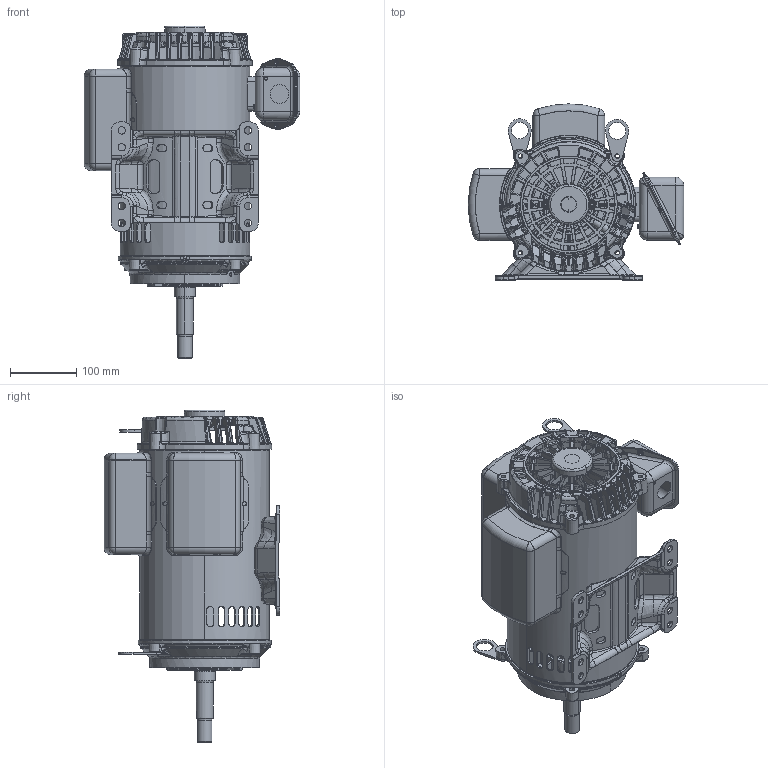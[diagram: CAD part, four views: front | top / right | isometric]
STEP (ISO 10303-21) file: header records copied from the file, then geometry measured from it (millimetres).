
FILE_DESCRIPTION((''),'2;1');
FILE_NAME('BB07_ASM','2014-07-21T',('NMC779F'),('Nidec Motor Corporation'),'PRO/ENGINEER BY PARAMETRIC TECHNOLOGY CORPORATION, 2013150','PRO/ENGINEER BY PARAMETRIC TECHNOLOGY CORPORATION, 2013150','');
FILE_SCHEMA(('CONFIG_CONTROL_DESIGN'));
Length unit declared in the file: inch
Products named in the file (16): 184_D_FRAME; 0394129-BKT_AF0; 0384386_AF0; 0384805_ASM; 0380228; 0380775-BKT_AF0; 0360286_AF0; 0380776_ASM; 0651822; 0362988; 0390418; 0390928; 0390417; 0382609; 0904779-001; BB07_ASM
Assembly tree (17 placements, depth 3):
  BB07_ASM
    184_D_FRAME
    0384805_ASM
      0394129-BKT_AF0
      0384386_AF0
    0380228
    0380776_ASM
      0380775-BKT_AF0
      0360286_AF0
    0651822
    0362988  x2
    0390418
    0390928
    0390417
    0382609
    0904779-001  x2
Bounding box: 325.4 x 265.64 x 501.15 mm (x, y, z)
Volume: 1779754.9 mm3; surface area: 1076184.5 mm2
Topology: 17 solids, 17 shells, 3130 faces, 8052 edges, 4915 vertices
Faces by surface type: bspline 1152, plane 584, cylinder 561, cone 393, torus 348, sphere 92
Entity records: 133869 total; most frequent: CARTESIAN_POINT 69379, ORIENTED_EDGE 15478, DIRECTION 10881, EDGE_CURVE 7739, VERTEX_POINT 4739, AXIS2_PLACEMENT_3D 4639, B_SPLINE_CURVE_WITH_KNOTS 3420, EDGE_LOOP 3202
